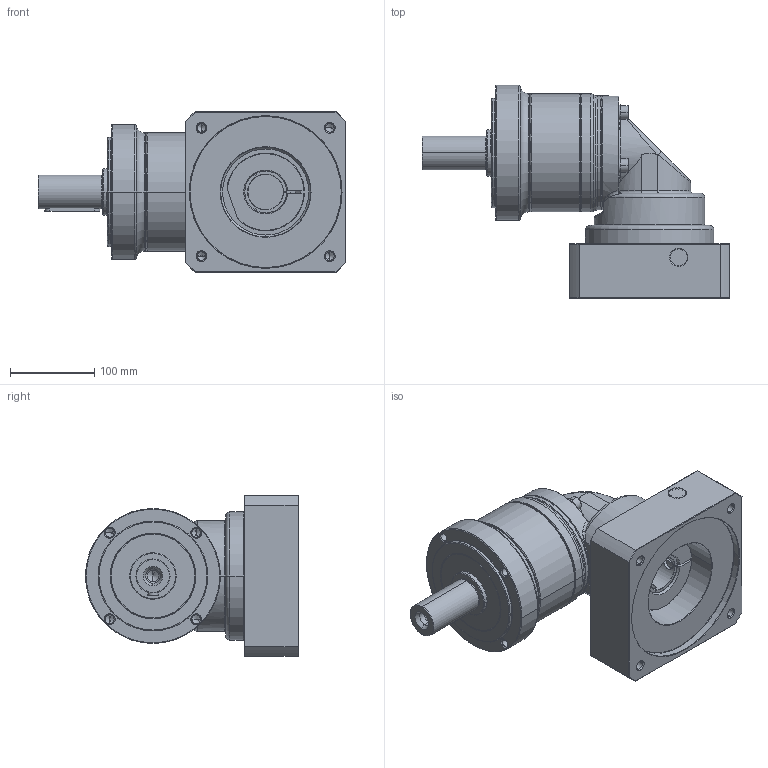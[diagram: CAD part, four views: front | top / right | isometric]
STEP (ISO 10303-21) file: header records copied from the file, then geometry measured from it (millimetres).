
FILE_DESCRIPTION((''),'2;1');
FILE_NAME('PG2R-160_1ST_42-P0411A00101_ASM','2016-04-26T',('d01943'),(''),'PRO/ENGINEER BY PARAMETRIC TECHNOLOGY CORPORATION, 2008410','PRO/ENGINEER BY PARAMETRIC TECHNOLOGY CORPORATION, 2008410','');
FILE_SCHEMA(('CONFIG_CONTROL_DESIGN'));
Length unit declared in the file: millimetre
Products named in the file (12): P1325510001; P0250500001; P0350501103; P1349500001; P1017500001; P0713506001; P0503A00012; P1350500601; P0411A00101; P1702700001; 2111BA10040; PG2R-160_1ST_42-P0411A00101_ASM
Assembly tree (14 placements, depth 2):
  PG2R-160_1ST_42-P0411A00101_ASM
    P1325510001
    P0250500001
    P0350501103
    P1349500001
    P1017500001
    P0713506001
    P0503A00012
    P1350500601
    P0411A00101
    P1702700001
    2111BA10040  x4
Bounding box: 364.5 x 252.5 x 190 mm (x, y, z)
Volume: 4319815.6 mm3; surface area: 579746.7 mm2
Topology: 14 solids, 15 shells, 700 faces, 1541 edges, 896 vertices
Faces by surface type: cylinder 215, cone 194, plane 157, torus 102, bspline 32
Entity records: 22535 total; most frequent: CARTESIAN_POINT 9043, DIRECTION 2991, ORIENTED_EDGE 2606, EDGE_CURVE 1303, AXIS2_PLACEMENT_3D 1266, VERTEX_POINT 776, EDGE_LOOP 679, CIRCLE 671
